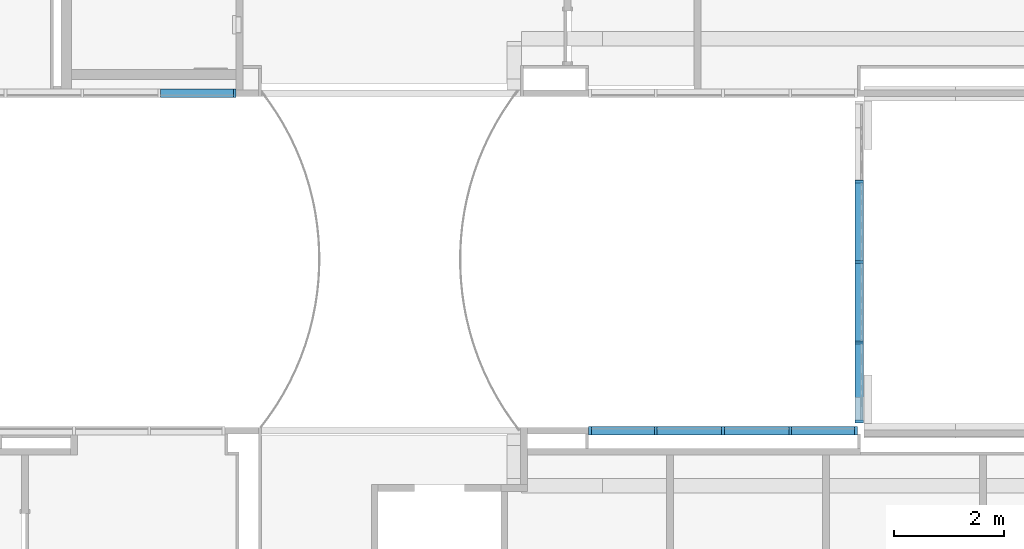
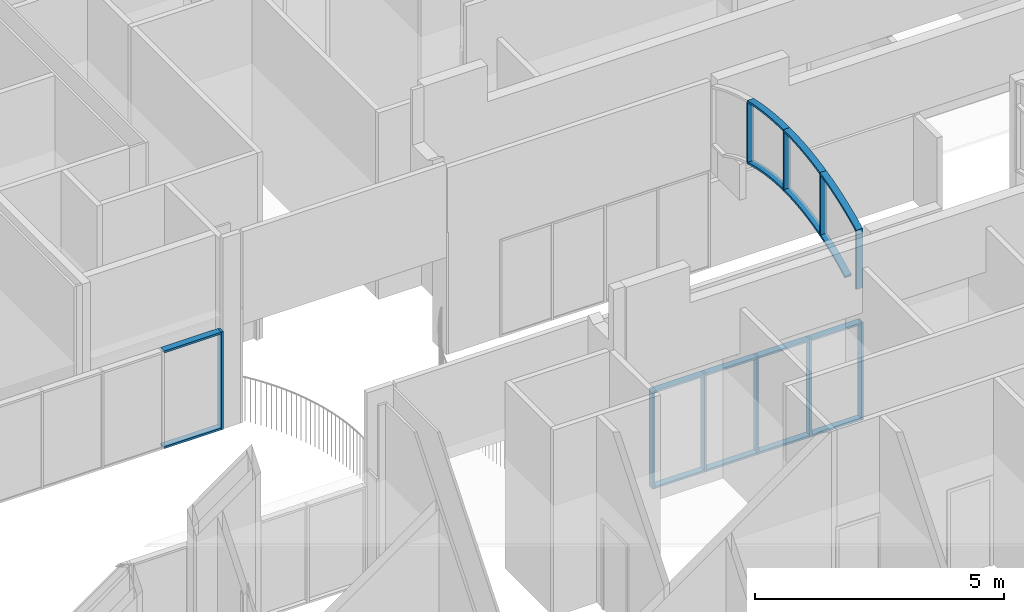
# One storey, part 2 of 45: 26 members, 3 elements without a shape of their own.
"""IFC2X3 building model written with IfcOpenShell, lengths in metres."""

from ifc_helpers import new_model, entity, si_unit, converted_unit, frame, frame_2d, origin, origin_2d_with_axis, place, context, project, spatial, polyline, circle_curve, parameter, trimmed, segment, composite_curve, rectangle, outline, extrude, source, transform, mapped, material, type_object, type_shapes, element, aggregate, save


model = new_model("IFC2X3")

# Units and contexts
model_context = context("Model", 3, precision=1e-09, world=origin())
plan_context = context("Plan", 3, precision=1e-09, world=origin())
ifc_project = project(units=[si_unit("LENGTHUNIT", "METRE"), si_unit("AREAUNIT", "SQUARE_METRE"), si_unit("VOLUMEUNIT", "CUBIC_METRE"), converted_unit("PLANEANGLEUNIT", "DEGREE", entity("IfcRatioMeasure", 0.01745329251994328), si_unit("PLANEANGLEUNIT", "RADIAN"), dimensions=[0, 0, 0, 0, 0, 0, 0]), si_unit("TIMEUNIT", "SECOND")], contexts=[model_context, plan_context])

# Site, building, storey
site_placement = place(None, origin())
site = spatial("IfcSite", under=ifc_project, at=site_placement, Name="Default", CompositionType="ELEMENT")
building_placement = place(site_placement, origin())
building = spatial("IfcBuilding", under=site, at=building_placement, CompositionType="ELEMENT")
storey_placement = place(building_placement, frame((0.0, 0.0, 4.570000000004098)))
storey = spatial("IfcBuildingStorey", under=building, at=storey_placement, Name="Second Floor", CompositionType="ELEMENT", Elevation=4.570000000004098)

# Curtain wall, members
curtain_wall_1_placement = place(storey_placement, origin())
curtain_wall_1 = element("IfcCurtainWall", 1, at=curtain_wall_1_placement, inside=storey, Name="Curtain Wall:Storefront", ObjectType="Curtain Wall:Storefront")
ifc_material = material(Name="Metal - Aluminium")
member_type_1 = type_object("IfcMemberType", Name="50 x 150mm", PredefinedType="MULLION")
shared_shape_1 = source(origin(), model_context, "Body", "SweptSolid", [
    extrude(rectangle(XDim=0.05, YDim=0.15, at=origin_2d_with_axis()), frame((0.0, 0.0, -2.399999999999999), z_axis=(0.0, 0.0, 1.0), x_axis=(-1.0, 0.0, 0.0)), (0.0, 0.0, 1.0), 2.399999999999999),
])
type_shapes(member_type_1, [shared_shape_1])
member_1_placement = place(storey_placement, frame((-11.4271133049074, 28.62819840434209, 0.0), z_axis=(0.0, 0.0, -1.0), x_axis=(-1.0, 0.0, 0.0)))
member_1 = element("IfcMember", 2, at=member_1_placement, type_object=member_type_1, material=ifc_material, Name="Rectangular Mullion:50 x 150mm:50 x 150mm", ObjectType="50 x 150mm", context=model_context, shape_type="MappedRepresentation", body=[
    mapped(shared_shape_1, transform((0.0, 0.0, 0.0), scale=1.0)),
])
member_2_placement = place(storey_placement, frame((-12.649806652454, 28.62819840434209, 0.0), z_axis=(0.0, 0.0, -1.0), x_axis=(-1.0, 0.0, 0.0)))
member_2 = element("IfcMember", 3, at=member_2_placement, type_object=member_type_1, material=ifc_material, Name="Rectangular Mullion:50 x 150mm:50 x 150mm", ObjectType="50 x 150mm", context=model_context, shape_type="MappedRepresentation", body=[
    mapped(shared_shape_1, transform((0.0, 0.0, 0.0), scale=1.0)),
])
member_3_placement = place(storey_placement, frame((-10.20441995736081, 28.6281984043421, 0.0), z_axis=(0.0, 0.0, -1.0), x_axis=(-1.0, 0.0, 0.0)))
member_3 = element("IfcMember", 4, at=member_3_placement, type_object=member_type_1, material=ifc_material, Name="Rectangular Mullion:50 x 150mm:50 x 150mm", ObjectType="50 x 150mm", context=model_context, shape_type="MappedRepresentation", body=[
    mapped(shared_shape_1, transform((0.0, 0.0, 0.0), scale=1.0)),
])
member_type_2 = type_object("IfcMemberType", Name="50 x 150mm", PredefinedType="MULLION")
shared_shape_2 = source(origin(), model_context, "Body", "SweptSolid", [
    extrude(rectangle(XDim=0.05, YDim=0.15, at=origin_2d_with_axis()), frame((-0.025, 0.0, -2.399999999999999), z_axis=(0.0, 0.0, 1.0), x_axis=(-1.0, 0.0, 0.0)), (0.0, 0.0, 1.0), 2.399999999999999),
])
type_shapes(member_type_2, [shared_shape_2])
member_4_placement = place(storey_placement, frame((-13.8725000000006, 28.62819840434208, 0.0), z_axis=(0.0, 0.0, -1.0), x_axis=(-1.0, 0.0, 0.0)))
member_4 = element("IfcMember", 5, at=member_4_placement, type_object=member_type_2, material=ifc_material, Name="Rectangular Mullion:50 x 150mm:50 x 150mm", ObjectType="50 x 150mm", context=model_context, shape_type="MappedRepresentation", body=[
    mapped(shared_shape_2, transform((0.0, 0.0, 0.0), scale=1.0)),
])
member_type_3 = type_object("IfcMemberType", Name="50 x 150mm", PredefinedType="MULLION")
type_shapes(member_type_3, [shared_shape_2])
member_5_placement = place(storey_placement, frame((-8.981726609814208, 28.6281984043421, 2.399999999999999)))
member_5 = element("IfcMember", 6, at=member_5_placement, type_object=member_type_3, material=ifc_material, Name="Rectangular Mullion:50 x 150mm:50 x 150mm", ObjectType="50 x 150mm", context=model_context, shape_type="MappedRepresentation", body=[
    mapped(shared_shape_2, transform((0.0, 0.0, 0.0), scale=1.0)),
])
member_type_4 = type_object("IfcMemberType", Name="50 x 150mm", PredefinedType="MULLION")
shared_shape_3 = source(origin(), model_context, "Body", "SweptSolid", [
    extrude(rectangle(XDim=0.05, YDim=0.15, at=origin_2d_with_axis()), frame((-0.025, 0.0, -1.172693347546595), z_axis=(0.0, 0.0, 1.0), x_axis=(-1.0, 0.0, 0.0)), (0.0, 0.0, 1.0), 1.172693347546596),
])
type_shapes(member_type_4, [shared_shape_3])
member_6_placement = place(storey_placement, frame((-10.22941995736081, 28.6281984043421, 0.0), z_axis=(1.0, 0.0, 0.0), x_axis=(0.0, 0.0, -1.0)))
member_6 = element("IfcMember", 7, at=member_6_placement, type_object=member_type_4, material=ifc_material, Name="Rectangular Mullion:50 x 150mm:50 x 150mm", ObjectType="50 x 150mm", context=model_context, shape_type="MappedRepresentation", body=[
    mapped(shared_shape_3, transform((0.0, 0.0, 0.0), scale=1.0)),
])
member_7_placement = place(storey_placement, frame((-11.4521133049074, 28.62819840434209, 0.0), z_axis=(1.0, 0.0, 0.0), x_axis=(0.0, 0.0, -1.0)))
member_7 = element("IfcMember", 8, at=member_7_placement, type_object=member_type_4, material=ifc_material, Name="Rectangular Mullion:50 x 150mm:50 x 150mm", ObjectType="50 x 150mm", context=model_context, shape_type="MappedRepresentation", body=[
    mapped(shared_shape_3, transform((0.0, 0.0, 0.0), scale=1.0)),
])
member_type_5 = type_object("IfcMemberType", Name="50 x 150mm", PredefinedType="MULLION")
shared_shape_4 = source(origin(), model_context, "Body", "SweptSolid", [
    extrude(rectangle(XDim=0.05, YDim=0.15, at=origin_2d_with_axis()), frame((-0.025, 0.0, -1.147693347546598), z_axis=(0.0, 0.0, 1.0), x_axis=(-1.0, 0.0, 0.0)), (0.0, 0.0, 1.0), 1.147693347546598),
])
type_shapes(member_type_5, [shared_shape_4])
member_8_placement = place(storey_placement, frame((-10.17941995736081, 28.6281984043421, 2.399999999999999), z_axis=(-1.0, 0.0, 0.0), x_axis=(0.0, 0.0, 1.0)))
member_8 = element("IfcMember", 9, at=member_8_placement, type_object=member_type_5, material=ifc_material, Name="Rectangular Mullion:50 x 150mm:50 x 150mm", ObjectType="50 x 150mm", context=model_context, shape_type="MappedRepresentation", body=[
    mapped(shared_shape_4, transform((0.0, 0.0, 0.0), scale=1.0)),
])
member_9_placement = place(storey_placement, frame((-13.8225000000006, 28.62819840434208, 2.399999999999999), z_axis=(-1.0, 0.0, 0.0), x_axis=(0.0, 0.0, 1.0)))
member_9 = element("IfcMember", 10, at=member_9_placement, type_object=member_type_5, material=ifc_material, Name="Rectangular Mullion:50 x 150mm:50 x 150mm", ObjectType="50 x 150mm", context=model_context, shape_type="MappedRepresentation", body=[
    mapped(shared_shape_4, transform((0.0, 0.0, 0.0), scale=1.0)),
])
member_type_6 = type_object("IfcMemberType", Name="50 x 150mm", PredefinedType="MULLION")
shared_shape_5 = source(origin(), model_context, "Body", "SweptSolid", [
    extrude(rectangle(XDim=0.05, YDim=0.15, at=origin_2d_with_axis()), frame((-0.025, 0.0, -1.147693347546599), z_axis=(0.0, 0.0, 1.0), x_axis=(-1.0, 0.0, 0.0)), (0.0, 0.0, 1.0), 1.147693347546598),
])
type_shapes(member_type_6, [shared_shape_5])
member_10_placement = place(storey_placement, frame((-12.674806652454, 28.62819840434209, 0.0), z_axis=(1.0, 0.0, 0.0), x_axis=(0.0, 0.0, -1.0)))
member_10 = element("IfcMember", 11, at=member_10_placement, type_object=member_type_6, material=ifc_material, Name="Rectangular Mullion:50 x 150mm:50 x 150mm", ObjectType="50 x 150mm", context=model_context, shape_type="MappedRepresentation", body=[
    mapped(shared_shape_5, transform((0.0, 0.0, 0.0), scale=1.0)),
])
member_11_placement = place(storey_placement, frame((-9.031726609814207, 28.6281984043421, 0.0), z_axis=(1.0, 0.0, 0.0), x_axis=(0.0, 0.0, -1.0)))
member_11 = element("IfcMember", 12, at=member_11_placement, type_object=member_type_6, material=ifc_material, Name="Rectangular Mullion:50 x 150mm:50 x 150mm", ObjectType="50 x 150mm", context=model_context, shape_type="MappedRepresentation", body=[
    mapped(shared_shape_5, transform((0.0, 0.0, 0.0), scale=1.0)),
])

curtain_wall_2_placement = place(storey_placement, origin())
curtain_wall_2 = element("IfcCurtainWall", 13, at=curtain_wall_2_placement, inside=storey, Name="Curtain Wall:Storefront", ObjectType="Curtain Wall:Storefront")
member_type_7 = type_object("IfcMemberType", Name="50 x 150mm", PredefinedType="MULLION")
shared_shape_6 = source(origin(), model_context, "Body", "SweptSolid", [
    extrude(rectangle(XDim=0.05, YDim=0.15, at=origin_2d_with_axis()), frame((-0.025, 0.0, -2.399999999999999), z_axis=(0.0, 0.0, 1.0), x_axis=(-1.0, 0.0, 0.0)), (0.0, 0.0, 1.0), 2.399999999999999),
])
type_shapes(member_type_7, [shared_shape_6])
member_12_placement = place(storey_placement, frame((-20.29000000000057, 34.77180159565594, 2.399999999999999)))
member_12 = element("IfcMember", 14, at=member_12_placement, type_object=member_type_7, material=ifc_material, Name="Rectangular Mullion:50 x 150mm:50 x 150mm", ObjectType="50 x 150mm", context=model_context, shape_type="MappedRepresentation", body=[
    mapped(shared_shape_6, transform((0.0, 0.0, 0.0), scale=1.0)),
])
member_type_8 = type_object("IfcMemberType", Name="50 x 150mm", PredefinedType="MULLION")
shared_shape_7 = source(origin(), model_context, "Body", "SweptSolid", [
    extrude(rectangle(XDim=0.05, YDim=0.15, at=origin_2d_with_axis()), frame((-0.025, 0.0, -1.324875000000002), z_axis=(0.0, 0.0, 1.0), x_axis=(-1.0, 0.0, 0.0)), (0.0, 0.0, 1.0), 1.324875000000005),
])
type_shapes(member_type_8, [shared_shape_7])
member_13_placement = place(storey_placement, frame((-20.34000000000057, 34.77180159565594, 0.0), z_axis=(1.0, 0.0, 0.0), x_axis=(0.0, 0.0, -1.0)))
member_13 = element("IfcMember", 15, at=member_13_placement, type_object=member_type_8, material=ifc_material, Name="Rectangular Mullion:50 x 150mm:50 x 150mm", ObjectType="50 x 150mm", context=model_context, shape_type="MappedRepresentation", body=[
    mapped(shared_shape_7, transform((0.0, 0.0, 0.0), scale=1.0)),
])
member_type_9 = type_object("IfcMemberType", Name="50 x 150mm", PredefinedType="MULLION")
shared_shape_8 = source(origin(), model_context, "Body", "SweptSolid", [
    extrude(rectangle(XDim=0.05, YDim=0.15, at=origin_2d_with_axis()), frame((-0.025, 0.0, -1.324875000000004), z_axis=(0.0, 0.0, 1.0), x_axis=(-1.0, 0.0, 0.0)), (0.0, 0.0, 1.0), 1.324875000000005),
])
type_shapes(member_type_9, [shared_shape_8])
member_14_placement = place(storey_placement, frame((-21.66487500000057, 34.77180159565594, 2.399999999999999), z_axis=(-1.0, 0.0, 0.0), x_axis=(0.0, 0.0, 1.0)))
member_14 = element("IfcMember", 16, at=member_14_placement, type_object=member_type_9, material=ifc_material, Name="Rectangular Mullion:50 x 150mm:50 x 150mm", ObjectType="50 x 150mm", context=model_context, shape_type="MappedRepresentation", body=[
    mapped(shared_shape_8, transform((0.0, 0.0, 0.0), scale=1.0)),
])
aggregate(curtain_wall_2, [member_14, member_12, member_13])

# Member
member_type_10 = type_object("IfcMemberType", Name="50 x 150mm", PredefinedType="MULLION")
shared_shape_9 = source(origin(), model_context, "Body", "SweptSolid", [
    extrude(rectangle(XDim=0.05, YDim=0.15, at=origin_2d_with_axis()), frame((-0.025, 0.0, -1.172693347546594), z_axis=(0.0, 0.0, 1.0), x_axis=(-1.0, 0.0, 0.0)), (0.0, 0.0, 1.0), 1.172693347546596),
])
type_shapes(member_type_10, [shared_shape_9])
member_15_placement = place(storey_placement, frame((-11.4021133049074, 28.62819840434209, 2.399999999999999), z_axis=(-1.0, 0.0, 0.0), x_axis=(0.0, 0.0, 1.0)))
member_15 = element("IfcMember", 17, at=member_15_placement, type_object=member_type_10, material=ifc_material, Name="Rectangular Mullion:50 x 150mm:50 x 150mm", ObjectType="50 x 150mm", context=model_context, shape_type="MappedRepresentation", body=[
    mapped(shared_shape_9, transform((0.0, 0.0, 0.0), scale=1.0)),
])

member_16_placement = place(storey_placement, frame((-12.624806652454, 28.62819840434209, 2.399999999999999), z_axis=(-1.0, 0.0, 0.0), x_axis=(0.0, 0.0, 1.0)))
member_16 = element("IfcMember", 18, at=member_16_placement, type_object=member_type_10, material=ifc_material, Name="Rectangular Mullion:50 x 150mm:50 x 150mm", ObjectType="50 x 150mm", context=model_context, shape_type="MappedRepresentation", body=[
    mapped(shared_shape_9, transform((0.0, 0.0, 0.0), scale=1.0)),
])

aggregate(curtain_wall_1, [member_1, member_2, member_15, member_10, member_11, member_3, member_8, member_6, member_4, member_5, member_7, member_16, member_9])

# Curtain wall, members
curtain_wall_3_placement = place(storey_placement, origin())
curtain_wall_3 = element("IfcCurtainWall", 19, at=curtain_wall_3_placement, inside=storey, Name="Curtain Wall:Storefront", ObjectType="Curtain Wall:Storefront")
member_type_11 = type_object("IfcMemberType", Name="50 x 150mm", PredefinedType="MULLION")
shared_shape_10 = source(origin(), model_context, "Body", "SweptSolid", [
    extrude(outline(composite_curve([segment(polyline([(-0.722206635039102, -0.0256518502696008), (0.7362284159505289, -0.0256518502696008)]), True, "CONTINUOUS"), segment(trimmed(circle_curve(frame_2d((-5.523026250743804, -1.475602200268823), x_axis=(0.9999988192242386, 0.001536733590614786)), 6.424999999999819), [parameter(12.95441987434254)], [parameter(13.07903804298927)], True, "PARAMETER"), True, "CONTINUOUS"), segment(polyline([(0.7330599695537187, -0.01204140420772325), (0.728774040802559, 0.006159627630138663)]), True, "CONTINUOUS"), segment(polyline([(0.728774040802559, 0.006159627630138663), (0.7244351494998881, 0.0243481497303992)]), True, "CONTINUOUS"), segment(polyline([(0.7244351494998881, 0.0243481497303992), (-0.737592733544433, 0.02434814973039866)]), True, "CONTINUOUS"), segment(trimmed(circle_curve(frame_2d((-5.523026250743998, -1.475602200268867), x_axis=(0.8700961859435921, 0.4928819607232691)), 5.014999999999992), [parameter(347.7514974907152)], [parameter(347.8729410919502)], True, "PARAMETER"), False, "CONTINUOUS"), segment(polyline([(-0.7344241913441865, 0.0142015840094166), (-0.7282740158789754, -0.005712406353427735)]), True, "CONTINUOUS"), segment(polyline([(-0.7282740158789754, -0.005712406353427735), (-0.722206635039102, -0.02565185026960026)]), True, "CONTINUOUS")], self_intersect=False)), frame((-0.0006518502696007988, -0.07500000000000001, -0.7821669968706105), z_axis=(0.0, 1.0, 0.0), x_axis=(0.0, 0.0, -1.0)), (0.0, 0.0, 1.0), 0.15),
])
type_shapes(member_type_11, [shared_shape_10])
member_17_placement = place(storey_placement, frame((-8.94599995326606, 33.16499999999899, 3.490831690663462), z_axis=(0.0, 0.0, -1.0), x_axis=(0.0, -1.0, 0.0)))
member_17 = element("IfcMember", 20, at=member_17_placement, type_object=member_type_11, material=ifc_material, Name="Rectangular Mullion:50 x 150mm:50 x 150mm", ObjectType="50 x 150mm", context=model_context, shape_type="MappedRepresentation", body=[
    mapped(shared_shape_10, transform((0.0, 0.0, 0.0), scale=1.0)),
])
member_type_12 = type_object("IfcMemberType", Name="50 x 150mm", PredefinedType="MULLION")
shared_shape_11 = source(origin(), model_context, "Body", "SweptSolid", [
    extrude(outline(composite_curve([segment(polyline([(-0.6042689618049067, -0.02322478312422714), (0.8057359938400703, -0.02322478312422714)]), True, "CONTINUOUS"), segment(trimmed(circle_curve(frame_2d((-5.619246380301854, -0.008175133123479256), x_axis=(0.9744238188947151, -0.2247180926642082)), 6.424999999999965), [parameter(12.85209420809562)], [parameter(13.07434994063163)], True, "PARAMETER"), True, "CONTINUOUS"), segment(trimmed(circle_curve(frame_2d((-5.619246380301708, -0.0081751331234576), x_axis=(0.9999988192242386, 0.001536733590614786)), 6.424999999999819), [parameter(0.0)], [parameter(0.2236274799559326)], True, "PARAMETER"), True, "CONTINUOUS"), segment(polyline([(0.8056585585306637, 0.02677521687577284), (-0.6043681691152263, 0.02677521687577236)]), True, "CONTINUOUS"), segment(trimmed(circle_curve(frame_2d((-5.619246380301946, -0.008175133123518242), x_axis=(0.9548558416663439, 0.2970695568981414)), 5.015000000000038), [parameter(342.8331478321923)], [parameter(343.1176281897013)], True, "PARAMETER"), False, "CONTINUOUS"), segment(polyline([(-0.6042564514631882, 0.001875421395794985), (-0.604247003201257, -0.01067466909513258)]), True, "CONTINUOUS"), segment(polyline([(-0.604247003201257, -0.01067466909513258), (-0.6042689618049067, -0.02322478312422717)]), True, "CONTINUOUS")], self_intersect=False)), frame((0.001775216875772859, -0.07500000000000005, -0.6542563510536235), z_axis=(0.0, 1.0, 0.0), x_axis=(0.0, 0.0, -1.0)), (0.0, 0.0, 1.0), 0.15),
])
type_shapes(member_type_12, [shared_shape_11])
member_18_placement = place(storey_placement, frame((-8.945999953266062, 31.699999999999, 3.714962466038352), z_axis=(0.0, 0.0, -1.0), x_axis=(0.0, -1.0, 0.0)))
member_18 = element("IfcMember", 21, at=member_18_placement, type_object=member_type_12, material=ifc_material, Name="Rectangular Mullion:50 x 150mm:50 x 150mm", ObjectType="50 x 150mm", context=model_context, shape_type="MappedRepresentation", body=[
    mapped(shared_shape_11, transform((0.0, 0.0, 0.0), scale=1.0)),
])
member_type_13 = type_object("IfcMemberType", Name="50 x 150mm", PredefinedType="MULLION")
shared_shape_12 = source(origin(), model_context, "Body", "SweptSolid", [
    extrude(outline(composite_curve([segment(polyline([(-0.736550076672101, -0.02435906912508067), (0.7240299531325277, -0.02435906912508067)]), True, "CONTINUOUS"), segment(trimmed(circle_curve(frame_2d((-5.528175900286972, 1.455690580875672), x_axis=(0.8925376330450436, -0.4509729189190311)), 6.425000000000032), [parameter(13.48797753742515)], [parameter(13.81982101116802)], True, "PARAMETER"), True, "CONTINUOUS"), segment(polyline([(0.732497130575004, 0.01187681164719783), (0.7340800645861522, 0.01875800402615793)]), True, "CONTINUOUS"), segment(polyline([(0.7340800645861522, 0.01875800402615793), (0.7356554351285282, 0.02564093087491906)]), True, "CONTINUOUS"), segment(polyline([(0.7356554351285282, 0.02564093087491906), (-0.7213908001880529, 0.02564093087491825)]), True, "CONTINUOUS"), segment(trimmed(circle_curve(frame_2d((-5.528175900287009, 1.455690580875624), x_axis=(0.9999979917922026, 0.00200409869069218)), 5.015000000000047), [parameter(342.8438491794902)], [parameter(343.3170915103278)], True, "PARAMETER"), False, "CONTINUOUS"), segment(polyline([(-0.7333663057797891, -0.01401209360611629), (-0.7349554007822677, -0.01918644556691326)]), True, "CONTINUOUS"), segment(polyline([(-0.7349554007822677, -0.01918644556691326), (-0.736550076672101, -0.02435906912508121)]), True, "CONTINUOUS")], self_intersect=False)), frame((0.0006409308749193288, -0.07499999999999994, -0.7811710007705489), z_axis=(0.0, 1.0, 0.0), x_axis=(0.0, 0.0, -1.0)), (0.0, 0.0, 1.0), 0.15),
])
type_shapes(member_type_13, [shared_shape_12])
member_19_placement = place(storey_placement, frame((-8.945999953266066, 30.23499999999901, 3.496977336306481), z_axis=(0.0, 0.0, -1.0), x_axis=(0.0, -1.0, 0.0)))
member_19 = element("IfcMember", 22, at=member_19_placement, type_object=member_type_13, material=ifc_material, Name="Rectangular Mullion:50 x 150mm:50 x 150mm", ObjectType="50 x 150mm", context=model_context, shape_type="MappedRepresentation", body=[
    mapped(shared_shape_12, transform((0.0, 0.0, 0.0), scale=1.0)),
])
member_type_14 = type_object("IfcMemberType", Name="50 x 150mm", PredefinedType="MULLION")
shared_shape_13 = source(origin(), model_context, "Body", "SweptSolid", [
    extrude(outline(composite_curve([segment(polyline([(-0.1086602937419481, -0.7298012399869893), (-0.05866029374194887, -0.7298012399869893)]), True, "CONTINUOUS"), segment(trimmed(circle_curve(frame_2d((6.366339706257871, -0.7298012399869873), x_axis=(-0.9740588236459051, 0.226294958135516)), 6.42499999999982), [parameter(3.562221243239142e-13)], [parameter(13.07903804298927)], True, "PARAMETER"), False, "CONTINUOUS"), segment(polyline([(0.1080117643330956, 0.7241438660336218), (0.05930882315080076, 0.7354586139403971)]), True, "CONTINUOUS"), segment(trimmed(circle_curve(frame_2d((6.366339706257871, -0.7298012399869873), x_axis=(-0.9740588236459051, 0.226294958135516)), 6.474999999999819), [parameter(3.562221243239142e-13)], [parameter(13.07903804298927)], True, "PARAMETER"), True, "CONTINUOUS")], self_intersect=False)), frame((-0.1086602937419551, -0.07499999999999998, -0.7298012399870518), z_axis=(0.0, 1.0, 0.0), x_axis=(-0.9740588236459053, 0.0, 0.2262949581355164)), (0.0, 0.0, 1.0), 0.1499999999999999),
])
type_shapes(member_type_14, [shared_shape_13])
placement = place(building_placement, frame((0.0, 0.0, 9.25000000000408)))
member_20_placement = place(placement, frame((-8.945999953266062, 31.699999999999, 0.5449647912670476), z_axis=(0.0, -0.9999988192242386, 0.001536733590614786), x_axis=(0.0, 0.001536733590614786, 0.9999988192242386)))
member_20 = element("IfcMember", 23, at=member_20_placement, type_object=member_type_14, material=ifc_material, Name="Rectangular Mullion:50 x 150mm:50 x 150mm", ObjectType="50 x 150mm", context=model_context, shape_type="MappedRepresentation", body=[
    mapped(shared_shape_13, transform((0.0, 0.0, 0.0), scale=1.0)),
])
member_type_15 = type_object("IfcMemberType", Name="50 x 150mm", PredefinedType="MULLION")
shared_shape_14 = source(origin(), model_context, "Body", "SweptSolid", [
    extrude(outline(composite_curve([segment(polyline([(-0.1054287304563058, -0.5335868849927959), (-0.05373918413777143, -0.5335868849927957)]), True, "CONTINUOUS"), segment(trimmed(circle_curve(frame_2d((-4.906478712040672, 0.7317763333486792), x_axis=(0.9992109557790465, -0.03971732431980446)), 5.015000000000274), [parameter(347.6616481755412)], [parameter(359.9999999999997)], True, "PARAMETER"), True, "CONTINUOUS"), segment(polyline([(0.1045642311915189, 0.5325939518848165), (0.05460368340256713, 0.534579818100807)]), True, "CONTINUOUS"), segment(trimmed(circle_curve(frame_2d((-4.906478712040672, 0.7317763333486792), x_axis=(0.9992109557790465, -0.03971732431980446)), 4.965000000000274), [parameter(347.511143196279)], [parameter(359.9999999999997)], True, "PARAMETER"), False, "CONTINUOUS")], self_intersect=False)), frame((0.03332851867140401, -0.07499999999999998, -0.5363267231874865), z_axis=(0.0, 1.0, 0.0), x_axis=(-0.9992109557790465, 0.0, 0.03971732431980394)), (0.0, 0.0, 1.0), 0.1499999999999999),
])
type_shapes(member_type_15, [shared_shape_14])
member_21_placement = place(storey_placement, frame((-8.945999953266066, 30.23499999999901, 3.496977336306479), z_axis=(0.0, 0.9560936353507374, 0.2930613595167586), x_axis=(0.0, 0.2930613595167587, -0.9560936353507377)))
member_21 = element("IfcMember", 24, at=member_21_placement, type_object=member_type_15, material=ifc_material, Name="Rectangular Mullion:50 x 150mm:50 x 150mm", ObjectType="50 x 150mm", context=model_context, shape_type="MappedRepresentation", body=[
    mapped(shared_shape_14, transform((0.0, 0.0, 0.0), scale=1.0)),
])
member_type_16 = type_object("IfcMemberType", Name="50 x 150mm", PredefinedType="MULLION")
shared_shape_15 = source(origin(), model_context, "Body", "SweptSolid", [
    extrude(outline(polyline([(-0.721887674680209, -0.025), (0.7372659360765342, -0.025), (0.7065094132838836, 0.025), (-0.721887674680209, 0.025), (-0.721887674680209, -0.025)])), frame((-0.025, -0.07499999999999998, -0.721887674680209), z_axis=(0.0, 1.0, 0.0), x_axis=(0.0, 0.0, -1.0)), (0.0, 0.0, 1.0), 0.15),
])
type_shapes(member_type_16, [shared_shape_15])
member_22_placement = place(storey_placement, frame((-8.945999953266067, 28.76999999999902, 3.069999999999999), z_axis=(0.0, 0.0, -1.0), x_axis=(0.0, -1.0, 0.0)))
member_22 = element("IfcMember", 25, at=member_22_placement, type_object=member_type_16, material=ifc_material, Name="Rectangular Mullion:50 x 150mm:50 x 150mm", ObjectType="50 x 150mm", context=model_context, shape_type="MappedRepresentation", body=[
    mapped(shared_shape_15, transform((0.0, 0.0, 0.0), scale=1.0)),
])
member_type_17 = type_object("IfcMemberType", Name="50 x 150mm", PredefinedType="MULLION")
shared_shape_16 = source(origin(), model_context, "Body", "SweptSolid", [
    extrude(outline(composite_curve([segment(polyline([(-0.1165367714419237, -0.7628718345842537), (-0.06653677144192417, -0.7628718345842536)]), True, "CONTINUOUS"), segment(trimmed(circle_curve(frame_2d((6.358463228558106, -0.7628718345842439), x_axis=(-0.9710517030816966, 0.2388693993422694)), 6.425000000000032), [parameter(0.2746813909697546)], [parameter(13.81982101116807)], True, "PARAMETER"), False, "CONTINUOUS"), segment(polyline([(0.1121700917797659, 0.7419361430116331), (0.07090345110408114, 0.7838075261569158)]), True, "CONTINUOUS"), segment(trimmed(circle_curve(frame_2d((6.358463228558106, -0.7628718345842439), x_axis=(-0.9710517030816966, 0.2388693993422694)), 6.475000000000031), [parameter(3.562221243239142e-13)], [parameter(13.81982101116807)], True, "PARAMETER"), True, "CONTINUOUS")], self_intersect=False)), frame((-0.1183767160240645, -0.07499999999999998, -0.77805429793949), z_axis=(0.0, 1.0, 0.0), x_axis=(-0.9710517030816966, 0.0, 0.238869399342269)), (0.0, 0.0, 1.0), 0.15),
])
type_shapes(member_type_17, [shared_shape_16])
member_23_placement = place(storey_placement, frame((-8.945999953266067, 28.76999999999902, 4.529153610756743), z_axis=(0.0, -0.8925376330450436, -0.4509729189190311), x_axis=(0.0, -0.4509729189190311, 0.8925376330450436)))
member_23 = element("IfcMember", 26, at=member_23_placement, type_object=member_type_17, material=ifc_material, Name="Rectangular Mullion:50 x 150mm:50 x 150mm", ObjectType="50 x 150mm", context=model_context, shape_type="MappedRepresentation", body=[
    mapped(shared_shape_16, transform((0.0, 0.0, 0.0), scale=1.0)),
])
member_type_18 = type_object("IfcMemberType", Name="50 x 150mm", PredefinedType="MULLION")
shared_shape_17 = source(origin(), model_context, "Body", "SweptSolid", [
    extrude(outline(composite_curve([segment(polyline([(-0.1086005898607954, -0.7295442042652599), (-0.05860058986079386, -0.7295442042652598)]), True, "CONTINUOUS"), segment(trimmed(circle_curve(frame_2d((6.366399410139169, -0.7295442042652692), x_axis=(-0.9740773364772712, 0.2262152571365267)), 6.424999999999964), [parameter(3.562221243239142e-13)], [parameter(13.07434994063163)], True, "PARAMETER"), False, "CONTINUOUS"), segment(polyline([(0.1079525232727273, 0.7238888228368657), (0.05924865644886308, 0.7351995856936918)]), True, "CONTINUOUS"), segment(trimmed(circle_curve(frame_2d((6.366399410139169, -0.7295442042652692), x_axis=(-0.9740773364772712, 0.2262152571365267)), 6.474999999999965), [parameter(3.562221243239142e-13)], [parameter(13.07434994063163)], True, "PARAMETER"), True, "CONTINUOUS")], self_intersect=False)), frame((-0.1086005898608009, -0.07499999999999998, -0.729544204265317), z_axis=(0.0, 1.0, 0.0), x_axis=(-0.9740773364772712, 0.0, 0.2262152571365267)), (0.0, 0.0, 1.0), 0.15),
])
type_shapes(member_type_18, [shared_shape_17])
member_24_placement = place(placement, frame((-8.945999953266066, 30.23499999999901, 0.3793666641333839), z_axis=(0.0, -0.9744238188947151, -0.2247180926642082), x_axis=(0.0, -0.2247180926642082, 0.9744238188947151)))
member_24 = element("IfcMember", 27, at=member_24_placement, type_object=member_type_18, material=ifc_material, Name="Rectangular Mullion:50 x 150mm:50 x 150mm", ObjectType="50 x 150mm", context=model_context, shape_type="MappedRepresentation", body=[
    mapped(shared_shape_17, transform((0.0, 0.0, 0.0), scale=1.0)),
])
member_type_19 = type_object("IfcMemberType", Name="50 x 150mm", PredefinedType="MULLION")
shared_shape_18 = source(origin(), model_context, "Body", "SweptSolid", [
    extrude(outline(composite_curve([segment(polyline([(0.08615404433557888, -0.7364125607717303), (0.1361540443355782, -0.7364125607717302)]), True, "CONTINUOUS"), segment(trimmed(circle_curve(frame_2d((-4.878845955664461, -0.736412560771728), x_axis=(0.9554492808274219, 0.2951553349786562)), 5.015000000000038), [parameter(342.8331478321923)], [parameter(359.9999999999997)], True, "PARAMETER"), True, "CONTINUOUS"), segment(polyline([(-0.0872678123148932, 0.7437914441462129), (-0.1350402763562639, 0.7290336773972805)]), True, "CONTINUOUS"), segment(trimmed(circle_curve(frame_2d((-4.878845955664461, -0.736412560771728), x_axis=(0.9554492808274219, 0.2951553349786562)), 4.965000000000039), [parameter(342.8331478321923)], [parameter(359.9999999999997)], True, "PARAMETER"), False, "CONTINUOUS")], self_intersect=False)), frame((0.08615404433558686, -0.07499999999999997, -0.7364125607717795), z_axis=(0.0, 1.0, 0.0), x_axis=(-0.9554492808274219, 0.0, -0.2951553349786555)), (0.0, 0.0, 1.0), 0.15),
])
type_shapes(member_type_19, [shared_shape_18])
member_25_placement = place(storey_placement, frame((-8.94599995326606, 33.16499999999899, 3.490831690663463), z_axis=(0.0, 0.9548558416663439, -0.2970695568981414), x_axis=(0.0, -0.2970695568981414, -0.9548558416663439)))
member_25 = element("IfcMember", 28, at=member_25_placement, type_object=member_type_19, material=ifc_material, Name="Rectangular Mullion:50 x 150mm:50 x 150mm", ObjectType="50 x 150mm", context=model_context, shape_type="MappedRepresentation", body=[
    mapped(shared_shape_18, transform((0.0, 0.0, 0.0), scale=1.0)),
])
member_type_20 = type_object("IfcMemberType", Name="50 x 150mm", PredefinedType="MULLION")
shared_shape_19 = source(origin(), model_context, "Body", "SweptSolid", [
    extrude(outline(composite_curve([segment(polyline([(0.08601654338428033, -0.7359673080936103), (0.1360165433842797, -0.7359673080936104)]), True, "CONTINUOUS"), segment(trimmed(circle_curve(frame_2d((-4.878983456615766, -0.7359673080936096), x_axis=(0.955504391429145, 0.2949768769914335)), 5.015000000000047), [parameter(342.8438491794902)], [parameter(359.9999999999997)], True, "PARAMETER"), True, "CONTINUOUS"), segment(polyline([(-0.08712893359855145, 0.7433417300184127), (-0.1349041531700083, 0.7285928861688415)]), True, "CONTINUOUS"), segment(trimmed(circle_curve(frame_2d((-4.878983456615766, -0.7359673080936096), x_axis=(0.955504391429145, 0.2949768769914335)), 4.965000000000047), [parameter(342.8438491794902)], [parameter(359.9999999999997)], True, "PARAMETER"), False, "CONTINUOUS")], self_intersect=False)), frame((0.08601654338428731, -0.07499999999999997, -0.735967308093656), z_axis=(0.0, 1.0, 0.0), x_axis=(-0.9555043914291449, 0.0, -0.2949768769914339)), (0.0, 0.0, 1.0), 0.1499999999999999),
])
type_shapes(member_type_20, [shared_shape_19])
member_26_placement = place(storey_placement, frame((-8.945999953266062, 31.699999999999, 3.714962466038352), z_axis=(0.0, 0.9999979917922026, -0.00200409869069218), x_axis=(0.0, -0.00200409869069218, -0.9999979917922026)))
member_26 = element("IfcMember", 29, at=member_26_placement, type_object=member_type_20, material=ifc_material, Name="Rectangular Mullion:50 x 150mm:50 x 150mm", ObjectType="50 x 150mm", context=model_context, shape_type="MappedRepresentation", body=[
    mapped(shared_shape_19, transform((0.0, 0.0, 0.0), scale=1.0)),
])
aggregate(curtain_wall_3, [member_17, member_18, member_21, member_26, member_22, member_23, member_19, member_20, member_25, member_24])

save(model, "model.ifc")
